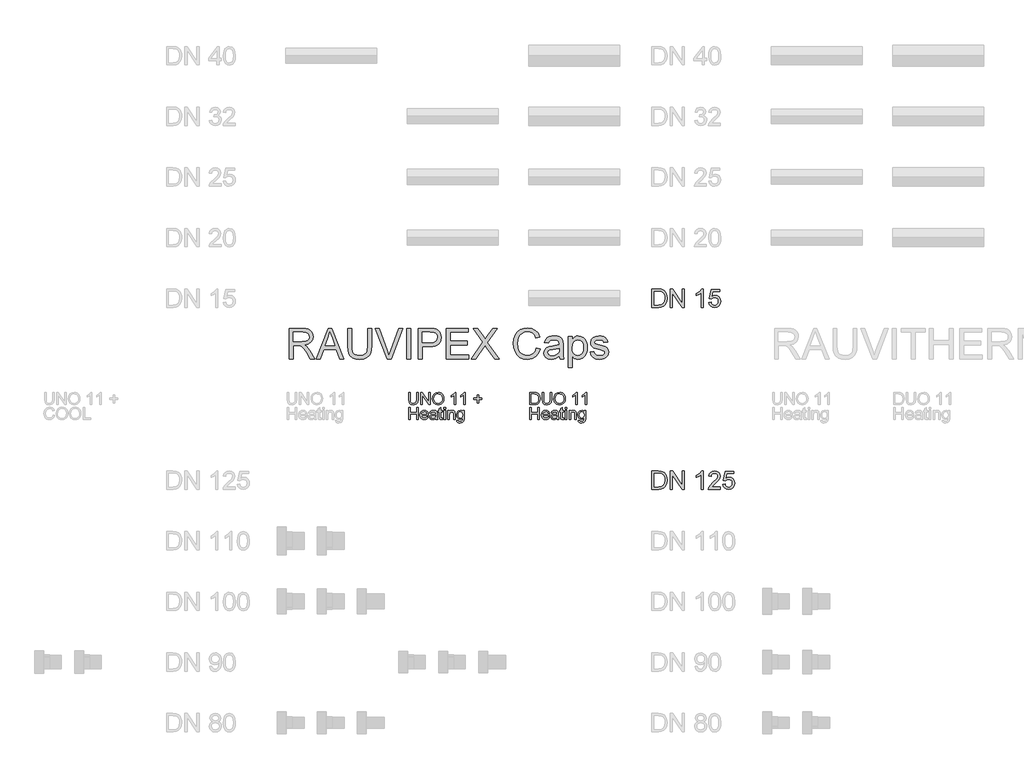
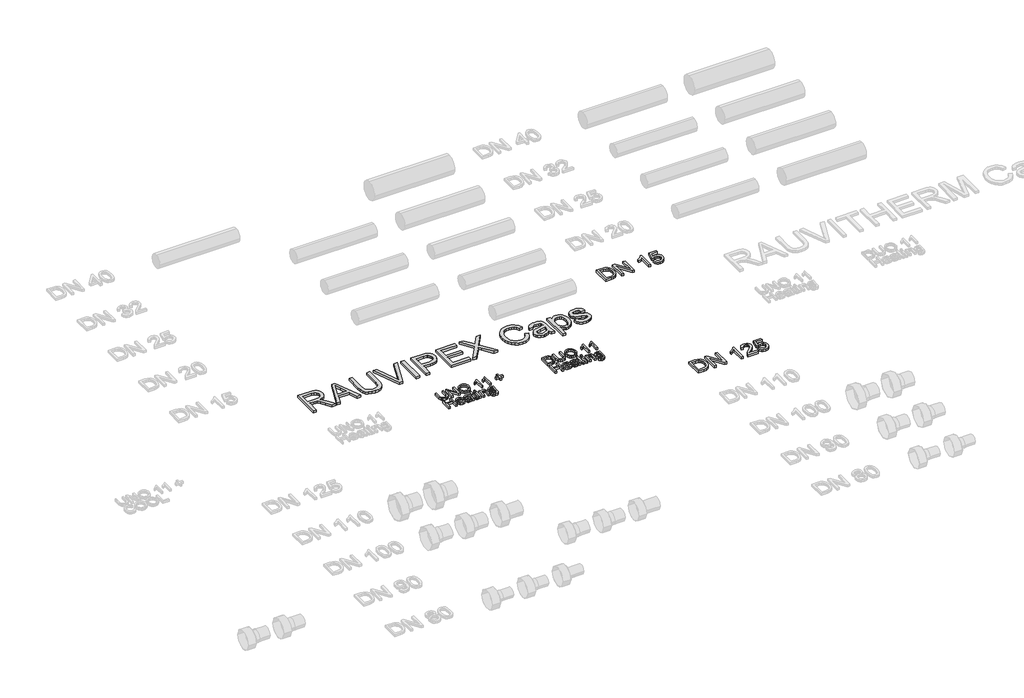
# One storey, part 28 of 44: 5 proxies.
"""IFC4 building model written with IfcOpenShell, lengths in millimetres."""

import ifcopenshell
import ifcopenshell.guid

model = None  # the IFC model being written
_history = None  # IfcOwnerHistory: only IFC2X3 demands one
_inside = {}  # id of a spatial element -> (the spatial element, [elements in it])
_under = {}  # id of a project, library or spatial element -> (it, [spatial elements below it])
_declared = {}  # id of a project -> (the project, [libraries it declares])
_typed = {}  # id of a type object -> (the type object, [elements of that type])
_made_of = {}  # id of a material, layer set ... -> (it, [elements and type objects made of it])


def new_model(schema):
    """Start an empty IFC model of exactly this schema.

    Asked for "IFC4X3", IfcOpenShell would pick the latest addendum, in which some entities
    have other attributes; the version numbers below select the first issue.
    IFC2X3 requires an IfcOwnerHistory on every rooted entity: one is made here for all.
    """
    global model, _history
    if schema == "IFC4X3":
        model = ifcopenshell.file(schema_version=(4, 3, 0, 0))
    else:
        model = ifcopenshell.file(schema=schema)
    _inside.clear()
    _under.clear()
    _declared.clear()
    _typed.clear()
    _made_of.clear()
    _history = None
    if model.schema == "IFC2X3":
        org = make("IfcOrganization", Name="unknown")
        user = make(
            "IfcPersonAndOrganization",
            ThePerson=make("IfcPerson", FamilyName="unknown"),
            TheOrganization=org,
        )
        app = make(
            "IfcApplication",
            ApplicationDeveloper=org,
            Version="unknown",
            ApplicationFullName="unknown",
            ApplicationIdentifier="unknown",
        )
        _history = make(
            "IfcOwnerHistory",
            OwningUser=user,
            OwningApplication=app,
            ChangeAction="ADDED",
            CreationDate=0,
        )
    return model


def make(cls, **values):
    """One entity of the class cls with the attributes given. An attribute that is None is left unset."""
    return model.create_entity(
        cls, **{name: value for name, value in values.items() if value is not None}
    )


def rooted(cls, **values):
    """An entity with a GlobalId (a new one), such as an element, a storey or a relation."""
    return make(cls, GlobalId=ifcopenshell.guid.new(), OwnerHistory=_history, **values)


def si_unit(unit_type, name, prefix=None):
    """IfcSIUnit, for example si_unit("LENGTHUNIT", "METRE", prefix="MILLI")."""
    return make("IfcSIUnit", UnitType=unit_type, Prefix=prefix, Name=name)


def assignment(units):
    """IfcUnitAssignment: the units of a project."""
    return None if units is None else make("IfcUnitAssignment", Units=units)


def point(xyz):
    """IfcCartesianPoint."""
    return None if xyz is None else make("IfcCartesianPoint", Coordinates=xyz)


def direction(xyz):
    """IfcDirection."""
    return None if xyz is None else make("IfcDirection", DirectionRatios=xyz)


def frame(location, z_axis=None, x_axis=None):
    """IfcAxis2Placement3D, a coordinate frame: its origin and axes. An axis left out is left unset."""
    return make(
        "IfcAxis2Placement3D",
        Location=point(location),
        Axis=direction(z_axis),
        RefDirection=direction(x_axis),
    )


def origin():
    """The frame at (0, 0, 0) with its axes left unset."""
    return frame((0.0, 0.0, 0.0))


def origin_with_axes():
    """The frame at (0, 0, 0) with the z axis (0, 0, 1) and the x axis (1, 0, 0) written out."""
    return frame((0.0, 0.0, 0.0), z_axis=(0.0, 0.0, 1.0), x_axis=(1.0, 0.0, 0.0))


def place(relative_to, where):
    """IfcLocalPlacement: puts the frame where relative to a parent placement (None: the world)."""
    return make(
        "IfcLocalPlacement", PlacementRelTo=relative_to, RelativePlacement=where
    )


def context(
    kind, dimensions, precision=None, world=None, true_north=None, identifier=None
):
    """IfcGeometricRepresentationContext, for example the 3D "Model" context."""
    return make(
        "IfcGeometricRepresentationContext",
        ContextIdentifier=identifier,
        ContextType=kind,
        CoordinateSpaceDimension=dimensions,
        Precision=precision,
        WorldCoordinateSystem=world,
        TrueNorth=true_north,
    )


def project(units=None, contexts=None):
    """IfcProject with its units and contexts."""
    return rooted(
        "IfcProject",
        Name="project",
        RepresentationContexts=contexts,
        UnitsInContext=assignment(units),
    )


def spatial(cls, under=None, at=None, **own):
    """A site, building, storey or space (cls), placed at a placement, below another one or the project."""
    s = rooted(cls, ObjectPlacement=at, **own)
    if under is not None:
        _under.setdefault(under.id(), (under, []))[1].append(s)
    return s


def polyline(points):
    """IfcPolyline through the points."""
    return make("IfcPolyline", Points=[point(p) for p in points])


def outline(outer, holes=None, kind="AREA"):
    """IfcArbitraryClosedProfileDef: a profile drawn as a closed curve; with holes, ...WithVoids."""
    if holes is None:
        return make("IfcArbitraryClosedProfileDef", ProfileType=kind, OuterCurve=outer)
    return make(
        "IfcArbitraryProfileDefWithVoids",
        ProfileType=kind,
        OuterCurve=outer,
        InnerCurves=holes,
    )


def extrude(swept, where, along, depth):
    """IfcExtrudedAreaSolid: the profile swept, set in the frame where, extruded along a direction by depth."""
    return make(
        "IfcExtrudedAreaSolid",
        SweptArea=swept,
        Position=where,
        ExtrudedDirection=direction(along),
        Depth=depth,
    )


def shape(context_of_items, identifier, shape_type, items):
    """IfcShapeRepresentation: the items that make up one representation, for example the "Body"."""
    return make(
        "IfcShapeRepresentation",
        ContextOfItems=context_of_items,
        RepresentationIdentifier=identifier,
        RepresentationType=shape_type,
        Items=items,
    )


def made_of(thing, what):
    """Note that an element or type object is made of a material, layer set ...; save() writes the relation."""
    if what is not None:
        _made_of.setdefault(what.id(), (what, []))[1].append(thing)
    return thing


def element(
    cls,
    number,
    at=None,
    inside=None,
    cuts=None,
    type_object=None,
    material=None,
    context=None,
    identifier="Body",
    shape_type=None,
    held_by="IfcProductDefinitionShape",
    body=None,
    shapes=None,
    **own,
):
    """One element of the class cls, such as IfcWall. Its Tag is "e" and its number.

    at: its placement. inside: the storey or other place that contains it. cuts: it is an
    opening in that element (IfcRelVoidsElement). A single representation is given by context,
    identifier, shape_type and body (its items); several are given by shapes. held_by: the class
    of the entity that holds the representations. save() writes the other relations.
    """
    e = rooted(cls, Tag="e%d" % number, ObjectPlacement=at, **own)
    if body is not None:
        shapes = [shape(context, identifier, shape_type, body)]
    if shapes is not None:
        e.Representation = make(held_by, Representations=shapes)
    if inside is not None:
        _inside.setdefault(inside.id(), (inside, []))[1].append(e)
    if cuts is not None:
        rooted(
            "IfcRelVoidsElement", RelatingBuildingElement=cuts, RelatedOpeningElement=e
        )
    if type_object is not None:
        _typed.setdefault(type_object.id(), (type_object, []))[1].append(e)
    return made_of(e, material)


def aggregate(whole, parts):
    """IfcRelAggregates: a whole, such as a stair, and the parts it consists of."""
    return rooted("IfcRelAggregates", RelatingObject=whole, RelatedObjects=parts)


def save(model, path):
    """Write the relations noted so far, then the file.

    IfcRelAggregates (storeys below a building ...), IfcRelContainedInSpatialStructure (elements
    in a storey), IfcRelDefinesByType, IfcRelAssociatesMaterial and IfcRelDeclares: one each for
    every whole, place, type object, material and project.
    """
    for whole, parts in _under.values():
        aggregate(whole, parts)
    for where, things in _inside.values():
        rooted(
            "IfcRelContainedInSpatialStructure",
            RelatedElements=things,
            RelatingStructure=where,
        )
    for kind, things in _typed.values():
        rooted("IfcRelDefinesByType", RelatedObjects=things, RelatingType=kind)
    for what, things in _made_of.values():
        rooted("IfcRelAssociatesMaterial", RelatedObjects=things, RelatingMaterial=what)
    for by, libraries in _declared.values():
        rooted("IfcRelDeclares", RelatingContext=by, RelatedDefinitions=libraries)
    model.write(path)


model = new_model("IFC4")

# Units and contexts
model_context = context("Model", 3, world=origin())
ifc_project = project(units=[si_unit("LENGTHUNIT", "METRE", prefix="MILLI")], contexts=[model_context])

# Site, building, storey
site = spatial("IfcSite", under=ifc_project)
building = spatial("IfcBuilding", under=site)
storey = spatial("IfcBuildingStorey", under=building, Name="REHAU Starting view", Elevation=0.0)

# Proxies
placement = place(None, origin())
element("IfcBuildingElementProxy", 1, Name="100", ObjectType="100", at=placement, inside=storey, context=model_context, shape_type="SweptSolid", body=[
    extrude(outline(polyline([(28076.9118625, 13222.431128), (28089.4689012, 13222.431128), (28089.4689012, 13164.477451), (28086.0598614, 13140.4547567), (28073.7726028, 13125.9847316), (28063.5086951, 13121.8000739), (28050.4734097, 13120.405188), (28027.529836, 13125.2612303), (28019.8901532, 13131.2055902), (28014.8011189, 13139.3265853), (28010.9874089, 13164.477451), (28010.9874089, 13222.431128), (28023.5444477, 13222.431128), (28023.5444477, 13164.9189094), (28026.0215198, 13145.7767829), (28034.5318566, 13136.2976902), (28049.2961874, 13132.9622268), (28062.067824, 13134.6115644), (28070.5597667, 13139.5595772), (28075.3238385, 13149.1980855), (28076.9118625, 13164.9189094), (28076.9118625, 13222.431128)])), origin_with_axes(), (0.0, 0.0, 1.0), 20.0),
    extrude(outline(polyline([(28111.4437191, 13121.9748178), (28111.4437191, 13222.431128), (28124.8836746, 13222.431128), (28177.3681726, 13142.8459897), (28177.3681726, 13222.431128), (28189.9252114, 13222.431128), (28189.9252114, 13121.9748178), (28176.4852558, 13121.9748178), (28124.0007578, 13201.5844816), (28124.0007578, 13121.9748178), (28111.4437191, 13121.9748178)])), origin_with_axes(), (0.0, 0.0, 1.0), 20.0),
    extrude(outline(polyline([(28207.1911397, 13170.8785977), (28210.5388658, 13193.0925389), (28220.5820443, 13209.8986147), (28235.9165921, 13220.4752221), (28255.1384264, 13224.0007578), (28268.3147332, 13222.3452889), (28280.1298766, 13217.3788819), (28289.9400631, 13209.4510249), (28297.1014993, 13198.9112058), (28301.479295, 13186.2683279), (28302.9385603, 13172.0312947), (28301.402653, 13157.6041891), (28296.794931, 13144.7835015), (28289.369846, 13134.2252883), (28279.3818499, 13126.5856055), (28267.667874, 13121.9502924), (28255.06485, 13120.405188), (28241.6862081, 13122.1127736), (28229.8036197, 13127.2355304), (28220.0179586, 13135.3105402), (28212.9300988, 13145.8748848), (28207.1911397, 13170.8785977)]), holes=[polyline([(28219.7481785, 13170.7559704), (28222.2589731, 13155.0412778), (28229.7913569, 13143.0667189), (28241.1129253, 13135.4883498), (28254.9912736, 13132.9622268), (28269.071957, 13135.5128753), (28280.4119195, 13143.1648208), (28287.889121, 13155.5072617), (28290.3815215, 13172.1293965), (28286.1140904, 13192.8534156), (28273.6428907, 13206.575414), (28255.2120028, 13211.4437191), (28241.7046022, 13209.0984714), (28230.2205526, 13202.0627282), (28222.366272, 13189.5455433), (28219.7481785, 13170.7559704)])]), origin_with_axes(), (0.0, 0.0, 1.0), 20.0),
    extrude(outline(polyline([(28401.8252406, 13121.9748178), (28389.2682018, 13121.9748178), (28389.2682018, 13200.2601064), (28377.3733507, 13191.7865578), (28364.1541243, 13185.4467247), (28364.1541243, 13197.3170505), (28382.5604868, 13209.0647488), (28393.7318367, 13222.431128), (28401.8252406, 13222.431128), (28401.8252406, 13121.9748178)])), origin_with_axes(), (0.0, 0.0, 1.0), 20.0),
    extrude(outline(polyline([(28478.7371031, 13121.9748178), (28466.1800643, 13121.9748178), (28466.1800643, 13200.2601064), (28454.2852131, 13191.7865578), (28441.0659868, 13185.4467247), (28441.0659868, 13197.3170505), (28459.4723492, 13209.0647488), (28470.6436992, 13222.431128), (28478.7371031, 13222.431128), (28478.7371031, 13121.9748178)])), origin_with_axes(), (0.0, 0.0, 1.0), 20.0),
    extrude(outline(polyline([(28576.0541535, 13137.6711163), (28576.0541535, 13164.3548237), (28549.3704461, 13164.3548237), (28549.3704461, 13176.9118625), (28576.0541535, 13176.9118625), (28576.0541535, 13203.5955698), (28588.6111923, 13203.5955698), (28588.6111923, 13176.9118625), (28615.2948997, 13176.9118625), (28615.2948997, 13164.3548237), (28588.6111923, 13164.3548237), (28588.6111923, 13137.6711163), (28576.0541535, 13137.6711163)])), origin_with_axes(), (0.0, 0.0, 1.0), 20.0),
    extrude(outline(polyline([(28010.9874089, 13000.0), (28010.9874089, 13100.4563101), (28023.5444477, 13100.4563101), (28023.5444477, 13059.6459342), (28076.9118625, 13059.6459342), (28076.9118625, 13100.4563101), (28089.4689012, 13100.4563101), (28089.4689012, 13000.0), (28076.9118625, 13000.0), (28076.9118625, 13047.0888954), (28023.5444477, 13047.0888954), (28023.5444477, 13000.0), (28010.9874089, 13000.0)])), origin_with_axes(), (0.0, 0.0, 1.0), 20.0),
    extrude(outline(polyline([(28161.5247213, 13021.9748178), (28173.8365055, 13020.405188), (28169.4004617, 13011.1284304), (28162.321799, 13004.1938547), (28152.7599328, 12999.8712413), (28140.8742787, 12998.4303702), (28126.1406048, 13000.9166393), (28114.803708, 13008.3754468), (28107.5748268, 13020.3224146), (28105.1651997, 13036.2731647), (28107.5993522, 13052.7604095), (28114.9018098, 13065.0905877), (28126.0854225, 13072.7793214), (28140.1630402, 13075.3422326), (28153.8022651, 13072.7854527), (28164.7007692, 13065.1151131), (28171.846877, 13052.8094604), (28174.2289129, 13036.3467411), (28174.1553365, 13032.9622268), (28117.7222385, 13032.9622268), (28119.8958079, 13023.5628418), (28124.9449883, 13016.6527916), (28132.2321175, 13012.4037546), (28141.1195333, 13010.9874089), (28153.4313175, 13013.6116338), (28161.5247213, 13021.9748178)]), holes=[polyline([(28117.7222385, 13045.5192655), (28161.6718741, 13045.5192655), (28156.6441535, 13056.8990819), (28149.3233018, 13061.3136659), (28140.1139892, 13062.7851938), (28124.6506827, 13058.088567), (28119.7854433, 13052.5979283), (28117.7222385, 13045.5192655)])]), origin_with_axes(), (0.0, 0.0, 1.0), 20.0),
    extrude(outline(polyline([(28233.8748471, 13009.4177791), (28221.697953, 13000.9074423), (28208.2457347, 12998.4303702), (28197.7519008, 12999.9202922), (28190.0110505, 13004.3900585), (28185.2377816, 13011.1774813), (28183.646692, 13019.6203731), (28186.0501877, 13029.5531869), (28192.3654953, 13036.7636741), (28201.157875, 13040.8839524), (28212.0226566, 13042.7724133), (28233.8012707, 13047.0888954), (28233.8748471, 13049.8847985), (28230.4167563, 13059.1554248), (28216.5353424, 13062.7851938), (28203.8311508, 13060.3694354), (28197.7733606, 13051.7977849), (28185.2163218, 13053.3674148), (28190.6487126, 13065.6301479), (28201.5870706, 13072.8161096), (28218.1540231, 13075.3422326), (28233.372075, 13073.1104152), (28241.968251, 13067.5063461), (28245.8187492, 13058.9837466), (28246.4318858, 13047.9963376), (28246.4318858, 13032.3736156), (28247.069548, 13010.5582133), (28249.5711455, 13000.0), (28237.0141068, 13000.0), (28233.8748471, 13009.4177791)]), holes=[polyline([(28233.8748471, 13034.5318566), (28213.6168119, 13030.6813584), (28202.8133439, 13028.6457447), (28197.9205134, 13025.3348067), (28196.2037308, 13020.5032899), (28199.9438644, 13013.7097357), (28210.9190106, 13010.9874089), (28223.6232021, 13013.9917785), (28231.8147079, 13021.2635793), (28233.8012707, 13030.975664), (28233.8748471, 13034.5318566)])]), origin_with_axes(), (0.0, 0.0, 1.0), 20.0),
    extrude(outline(polyline([(28290.3815215, 13010.4723741), (28291.9511514, 12999.632118), (28282.5578978, 12998.4303702), (28272.0364727, 13000.5150348), (28266.7880229, 13005.9842138), (28265.267444, 13020.2335097), (28265.267444, 13061.215564), (28255.8496649, 13061.215564), (28255.8496649, 13073.7726028), (28265.267444, 13073.7726028), (28265.267444, 13091.7007187), (28277.8244828, 13099.082884), (28277.8244828, 13073.7726028), (28290.3815215, 13073.7726028), (28290.3815215, 13061.215564), (28277.8244828, 13061.215564), (28277.8244828, 13020.6013917), (28278.4866703, 13014.1266686), (28280.6326487, 13011.8335375), (28284.9123425, 13010.9874089), (28290.3815215, 13010.4723741)])), origin_with_axes(), (0.0, 0.0, 1.0), 20.0),
    extrude(outline(polyline([(28302.9385603, 13087.8992714), (28302.9385603, 13100.4563101), (28315.4955991, 13100.4563101), (28315.4955991, 13087.8992714), (28302.9385603, 13087.8992714)])), origin_with_axes(), (0.0, 0.0, 1.0), 20.0),
    extrude(outline(polyline([(28302.9385603, 13000.0), (28302.9385603, 13073.7726028), (28315.4955991, 13073.7726028), (28315.4955991, 13000.0), (28302.9385603, 13000.0)])), origin_with_axes(), (0.0, 0.0, 1.0), 20.0),
    extrude(outline(polyline([(28334.3311572, 13000.0), (28334.3311572, 13073.7726028), (28346.888196, 13073.7726028), (28346.888196, 13063.4719069), (28356.4899161, 13072.3746512), (28369.5987778, 13075.3422326), (28381.4568408, 13072.9509996), (28389.5502447, 13066.6724803), (28393.3149038, 13057.4386422), (28393.9770914, 13045.2985363), (28393.9770914, 13000.0), (28381.4200526, 13000.0), (28381.4200526, 13043.6062792), (28379.9730501, 13054.7163154), (28374.8594904, 13060.5901646), (28366.2387889, 13062.7851938), (28352.6148924, 13057.8555751), (28348.3198701, 13050.712533), (28346.888196, 13039.1426443), (28346.888196, 13000.0), (28334.3311572, 13000.0)])), origin_with_axes(), (0.0, 0.0, 1.0), 20.0),
    extrude(outline(polyline([(28408.10376, 12993.7214806), (28420.6607988, 12992.1518508), (28424.7320262, 12985.5299749), (28436.9211829, 12982.7340717), (28449.7725273, 12985.8978569), (28455.9038939, 12994.7760757), (28456.7622852, 13009.4177791), (28447.9208546, 13002.3544448), (28437.1419121, 13000.0), (28424.1955316, 13002.7407209), (28414.5416949, 13010.9628835), (28408.5360213, 13023.0171502), (28406.5341301, 13037.2541834), (28410.127111, 13056.7151409), (28420.5259087, 13070.4861903), (28436.5287755, 13075.3422326), (28447.7307822, 13072.5953804), (28456.7622852, 13064.3548237), (28456.7622852, 13073.7726028), (28469.319324, 13073.7726028), (28469.319324, 13010.0799667), (28465.8857587, 12985.6893904), (28455.0087144, 12974.3463622), (28436.6759283, 12970.1770329), (28424.9926092, 12971.6454952), (28415.7924937, 12976.0508821), (28409.8910533, 12983.4054563), (28408.10376, 12993.7214806)]), holes=[polyline([(28419.0911689, 13038.1125747), (28420.4308725, 13026.5948026), (28424.4499833, 13018.6761426), (28430.4924451, 13014.0868147), (28437.9022016, 13012.5570388), (28445.2567758, 13014.0776177), (28451.3298944, 13018.6393544), (28455.4041875, 13026.4568468), (28456.7622852, 13037.7446927), (28455.3643336, 13048.6309341), (28451.1704789, 13056.4698863), (28445.0084555, 13061.2063669), (28437.7059979, 13062.7851938), (28430.5353646, 13061.2308924), (28424.5235597, 13056.5679881), (28420.4492666, 13048.8455319), (28419.0911689, 13038.1125747)])]), origin_with_axes(), (0.0, 0.0, 1.0), 20.0),
])
element("IfcBuildingElementProxy", 2, Name="100", ObjectType="100", at=placement, inside=storey, context=model_context, shape_type="SweptSolid", body=[
    extrude(outline(polyline([(29010.9874089, 13121.9748178), (29010.9874089, 13222.431128), (29045.6418929, 13222.431128), (29063.5700088, 13220.9841255), (29078.3343395, 13213.7981638), (29090.2291907, 13196.6303374), (29094.1777908, 13172.7425332), (29091.5045149, 13152.4722352), (29084.6373844, 13137.8427946), (29075.4648599, 13128.7315838), (29063.4596442, 13123.6916005), (29047.3096246, 13121.9748178), (29010.9874089, 13121.9748178)]), holes=[polyline([(29023.5444477, 13134.5318566), (29045.7645202, 13134.5318566), (29061.9268025, 13136.3467411), (29071.2464797, 13141.4725636), (29078.8861625, 13153.9437632), (29081.620752, 13172.9387369), (29080.2810484, 13186.6239471), (29076.2619376, 13196.7284393), (29063.2266522, 13207.863001), (29045.4211637, 13209.8740892), (29023.5444477, 13209.8740892), (29023.5444477, 13134.5318566)])]), origin_with_axes(), (0.0, 0.0, 1.0), 20.0),
    extrude(outline(polyline([(29177.3681726, 13222.431128), (29189.9252114, 13222.431128), (29189.9252114, 13164.477451), (29186.5161716, 13140.4547567), (29174.2289129, 13125.9847316), (29163.9650053, 13121.8000739), (29150.9297199, 13120.405188), (29127.9861461, 13125.2612303), (29120.3464634, 13131.2055902), (29115.2574291, 13139.3265853), (29111.4437191, 13164.477451), (29111.4437191, 13222.431128), (29124.0007578, 13222.431128), (29124.0007578, 13164.9189094), (29126.4778299, 13145.7767829), (29134.9881668, 13136.2976902), (29149.7524975, 13132.9622268), (29162.5241341, 13134.6115644), (29171.0160768, 13139.5595772), (29175.7801487, 13149.1980855), (29177.3681726, 13164.9189094), (29177.3681726, 13222.431128)])), origin_with_axes(), (0.0, 0.0, 1.0), 20.0),
    extrude(outline(polyline([(29207.1911397, 13170.8785977), (29210.5388658, 13193.0925389), (29220.5820443, 13209.8986147), (29235.9165921, 13220.4752221), (29255.1384264, 13224.0007578), (29268.3147332, 13222.3452889), (29280.1298766, 13217.3788819), (29289.9400631, 13209.4510249), (29297.1014993, 13198.9112058), (29301.479295, 13186.2683279), (29302.9385603, 13172.0312947), (29301.402653, 13157.6041891), (29296.794931, 13144.7835015), (29289.369846, 13134.2252883), (29279.3818499, 13126.5856055), (29267.667874, 13121.9502924), (29255.06485, 13120.405188), (29241.6862081, 13122.1127736), (29229.8036197, 13127.2355304), (29220.0179586, 13135.3105402), (29212.9300988, 13145.8748848), (29207.1911397, 13170.8785977)]), holes=[polyline([(29219.7481785, 13170.7559704), (29222.2589731, 13155.0412778), (29229.7913569, 13143.0667189), (29241.1129253, 13135.4883498), (29254.9912736, 13132.9622268), (29269.071957, 13135.5128753), (29280.4119195, 13143.1648208), (29287.889121, 13155.5072617), (29290.3815215, 13172.1293965), (29286.1140904, 13192.8534156), (29273.6428907, 13206.575414), (29255.2120028, 13211.4437191), (29241.7046022, 13209.0984714), (29230.2205526, 13202.0627282), (29222.366272, 13189.5455433), (29219.7481785, 13170.7559704)])]), origin_with_axes(), (0.0, 0.0, 1.0), 20.0),
    extrude(outline(polyline([(29401.8252406, 13121.9748178), (29389.2682018, 13121.9748178), (29389.2682018, 13200.2601064), (29377.3733507, 13191.7865578), (29364.1541243, 13185.4467247), (29364.1541243, 13197.3170505), (29382.5604868, 13209.0647488), (29393.7318367, 13222.431128), (29401.8252406, 13222.431128), (29401.8252406, 13121.9748178)])), origin_with_axes(), (0.0, 0.0, 1.0), 20.0),
    extrude(outline(polyline([(29478.7371031, 13121.9748178), (29466.1800643, 13121.9748178), (29466.1800643, 13200.2601064), (29454.2852131, 13191.7865578), (29441.0659868, 13185.4467247), (29441.0659868, 13197.3170505), (29459.4723492, 13209.0647488), (29470.6436992, 13222.431128), (29478.7371031, 13222.431128), (29478.7371031, 13121.9748178)])), origin_with_axes(), (0.0, 0.0, 1.0), 20.0),
    extrude(outline(polyline([(29010.9874089, 13000.0), (29010.9874089, 13100.4563101), (29023.5444477, 13100.4563101), (29023.5444477, 13059.6459342), (29076.9118625, 13059.6459342), (29076.9118625, 13100.4563101), (29089.4689012, 13100.4563101), (29089.4689012, 13000.0), (29076.9118625, 13000.0), (29076.9118625, 13047.0888954), (29023.5444477, 13047.0888954), (29023.5444477, 13000.0), (29010.9874089, 13000.0)])), origin_with_axes(), (0.0, 0.0, 1.0), 20.0),
    extrude(outline(polyline([(29161.5247213, 13021.9748178), (29173.8365055, 13020.405188), (29169.4004617, 13011.1284304), (29162.321799, 13004.1938547), (29152.7599328, 12999.8712413), (29140.8742787, 12998.4303702), (29126.1406048, 13000.9166393), (29114.803708, 13008.3754468), (29107.5748268, 13020.3224146), (29105.1651997, 13036.2731647), (29107.5993522, 13052.7604095), (29114.9018098, 13065.0905877), (29126.0854225, 13072.7793214), (29140.1630402, 13075.3422326), (29153.8022651, 13072.7854527), (29164.7007692, 13065.1151131), (29171.846877, 13052.8094604), (29174.2289129, 13036.3467411), (29174.1553365, 13032.9622268), (29117.7222385, 13032.9622268), (29119.8958079, 13023.5628418), (29124.9449883, 13016.6527916), (29132.2321175, 13012.4037546), (29141.1195333, 13010.9874089), (29153.4313175, 13013.6116338), (29161.5247213, 13021.9748178)]), holes=[polyline([(29117.7222385, 13045.5192655), (29161.6718741, 13045.5192655), (29156.6441535, 13056.8990819), (29149.3233018, 13061.3136659), (29140.1139892, 13062.7851938), (29124.6506827, 13058.088567), (29119.7854433, 13052.5979283), (29117.7222385, 13045.5192655)])]), origin_with_axes(), (0.0, 0.0, 1.0), 20.0),
    extrude(outline(polyline([(29233.8748471, 13009.4177791), (29221.697953, 13000.9074423), (29208.2457347, 12998.4303702), (29197.7519008, 12999.9202922), (29190.0110505, 13004.3900585), (29185.2377816, 13011.1774813), (29183.646692, 13019.6203731), (29186.0501877, 13029.5531869), (29192.3654953, 13036.7636741), (29201.157875, 13040.8839524), (29212.0226566, 13042.7724133), (29233.8012707, 13047.0888954), (29233.8748471, 13049.8847985), (29230.4167563, 13059.1554248), (29216.5353424, 13062.7851938), (29203.8311508, 13060.3694354), (29197.7733606, 13051.7977849), (29185.2163218, 13053.3674148), (29190.6487126, 13065.6301479), (29201.5870706, 13072.8161096), (29218.1540231, 13075.3422326), (29233.372075, 13073.1104152), (29241.968251, 13067.5063461), (29245.8187492, 13058.9837466), (29246.4318858, 13047.9963376), (29246.4318858, 13032.3736156), (29247.069548, 13010.5582133), (29249.5711455, 13000.0), (29237.0141068, 13000.0), (29233.8748471, 13009.4177791)]), holes=[polyline([(29233.8748471, 13034.5318566), (29213.6168119, 13030.6813584), (29202.8133439, 13028.6457447), (29197.9205134, 13025.3348067), (29196.2037308, 13020.5032899), (29199.9438644, 13013.7097357), (29210.9190106, 13010.9874089), (29223.6232021, 13013.9917785), (29231.8147079, 13021.2635793), (29233.8012707, 13030.975664), (29233.8748471, 13034.5318566)])]), origin_with_axes(), (0.0, 0.0, 1.0), 20.0),
    extrude(outline(polyline([(29290.3815215, 13010.4723741), (29291.9511514, 12999.632118), (29282.5578978, 12998.4303702), (29272.0364727, 13000.5150348), (29266.7880229, 13005.9842138), (29265.267444, 13020.2335097), (29265.267444, 13061.215564), (29255.8496649, 13061.215564), (29255.8496649, 13073.7726028), (29265.267444, 13073.7726028), (29265.267444, 13091.7007187), (29277.8244828, 13099.082884), (29277.8244828, 13073.7726028), (29290.3815215, 13073.7726028), (29290.3815215, 13061.215564), (29277.8244828, 13061.215564), (29277.8244828, 13020.6013917), (29278.4866703, 13014.1266686), (29280.6326487, 13011.8335375), (29284.9123425, 13010.9874089), (29290.3815215, 13010.4723741)])), origin_with_axes(), (0.0, 0.0, 1.0), 20.0),
    extrude(outline(polyline([(29302.9385603, 13087.8992714), (29302.9385603, 13100.4563101), (29315.4955991, 13100.4563101), (29315.4955991, 13087.8992714), (29302.9385603, 13087.8992714)])), origin_with_axes(), (0.0, 0.0, 1.0), 20.0),
    extrude(outline(polyline([(29302.9385603, 13000.0), (29302.9385603, 13073.7726028), (29315.4955991, 13073.7726028), (29315.4955991, 13000.0), (29302.9385603, 13000.0)])), origin_with_axes(), (0.0, 0.0, 1.0), 20.0),
    extrude(outline(polyline([(29334.3311572, 13000.0), (29334.3311572, 13073.7726028), (29346.888196, 13073.7726028), (29346.888196, 13063.4719069), (29356.4899161, 13072.3746512), (29369.5987778, 13075.3422326), (29381.4568408, 13072.9509996), (29389.5502447, 13066.6724803), (29393.3149038, 13057.4386422), (29393.9770914, 13045.2985363), (29393.9770914, 13000.0), (29381.4200526, 13000.0), (29381.4200526, 13043.6062792), (29379.9730501, 13054.7163154), (29374.8594904, 13060.5901646), (29366.2387889, 13062.7851938), (29352.6148924, 13057.8555751), (29348.3198701, 13050.712533), (29346.888196, 13039.1426443), (29346.888196, 13000.0), (29334.3311572, 13000.0)])), origin_with_axes(), (0.0, 0.0, 1.0), 20.0),
    extrude(outline(polyline([(29408.10376, 12993.7214806), (29420.6607988, 12992.1518508), (29424.7320262, 12985.5299749), (29436.9211829, 12982.7340717), (29449.7725273, 12985.8978569), (29455.9038939, 12994.7760757), (29456.7622852, 13009.4177791), (29447.9208546, 13002.3544448), (29437.1419121, 13000.0), (29424.1955316, 13002.7407209), (29414.5416949, 13010.9628835), (29408.5360213, 13023.0171502), (29406.5341301, 13037.2541834), (29410.127111, 13056.7151409), (29420.5259087, 13070.4861903), (29436.5287755, 13075.3422326), (29447.7307822, 13072.5953804), (29456.7622852, 13064.3548237), (29456.7622852, 13073.7726028), (29469.319324, 13073.7726028), (29469.319324, 13010.0799667), (29465.8857587, 12985.6893904), (29455.0087144, 12974.3463622), (29436.6759283, 12970.1770329), (29424.9926092, 12971.6454952), (29415.7924937, 12976.0508821), (29409.8910533, 12983.4054563), (29408.10376, 12993.7214806)]), holes=[polyline([(29419.0911689, 13038.1125747), (29420.4308725, 13026.5948026), (29424.4499833, 13018.6761426), (29430.4924451, 13014.0868147), (29437.9022016, 13012.5570388), (29445.2567758, 13014.0776177), (29451.3298944, 13018.6393544), (29455.4041875, 13026.4568468), (29456.7622852, 13037.7446927), (29455.3643336, 13048.6309341), (29451.1704789, 13056.4698863), (29445.0084555, 13061.2063669), (29437.7059979, 13062.7851938), (29430.5353646, 13061.2308924), (29424.5235597, 13056.5679881), (29420.4492666, 13048.8455319), (29419.0911689, 13038.1125747)])]), origin_with_axes(), (0.0, 0.0, 1.0), 20.0),
])
element("IfcBuildingElementProxy", 3, Name="150", ObjectType="150", at=placement, inside=storey, context=model_context, shape_type="SweptSolid", body=[
    extrude(outline(polyline([(30016.4811134, 13925.0), (30016.4811134, 14075.6844652), (30068.4628393, 14075.6844652), (30095.3550131, 14073.5139615), (30117.5015093, 14062.735019), (30127.9217668, 14051.2571007), (30135.343786, 14036.9832793), (30139.7859611, 14020.1894663), (30141.2666861, 14001.151573), (30137.2567724, 13970.7461261), (30126.9560765, 13948.8019651), (30113.1972899, 13935.135149), (30095.1894663, 13927.575174), (30070.9644369, 13925.0), (30016.4811134, 13925.0)]), holes=[polyline([(30035.3166715, 13943.8355582), (30068.6467803, 13943.8355582), (30092.8902038, 13946.5578849), (30106.8697196, 13954.2466186), (30118.3292437, 13972.9534181), (30122.431128, 14001.4458786), (30120.4215726, 14021.9736939), (30114.3929064, 14037.1304321), (30105.4855636, 14047.5414926), (30094.8399784, 14053.8322747), (30068.1317455, 14056.8489071), (30035.3166715, 14056.8489071), (30035.3166715, 13943.8355582)])]), origin_with_axes(), (0.0, 0.0, 1.0), 20.0),
    extrude(outline(polyline([(30167.1655786, 13925.0), (30167.1655786, 14075.6844652), (30187.3255119, 14075.6844652), (30266.0522589, 13956.3067578), (30266.0522589, 14075.6844652), (30284.8878171, 14075.6844652), (30284.8878171, 13925.0), (30264.7278837, 13925.0), (30186.0011368, 14044.4144956), (30186.0011368, 13925.0), (30167.1655786, 13925.0)])), origin_with_axes(), (0.0, 0.0, 1.0), 20.0),
    extrude(outline(polyline([(30440.2811718, 13925.0), (30421.4456137, 13925.0), (30421.4456137, 14042.4279329), (30403.6033369, 14029.7176099), (30383.7744974, 14020.2078604), (30383.7744974, 14038.0133489), (30411.3840411, 14055.6348965), (30428.141066, 14075.6844652), (30440.2811718, 14075.6844652), (30440.2811718, 13925.0)])), origin_with_axes(), (0.0, 0.0, 1.0), 20.0),
    extrude(outline(polyline([(30485.0156224, 13965.0255611), (30503.8511806, 13967.3800058), (30507.3092713, 13956.072233), (30513.3425361, 13947.9742306), (30521.9233836, 13943.1043927), (30533.0242228, 13941.4811134), (30546.525492, 13943.7389891), (30556.6422469, 13950.5126164), (30562.9606202, 13961.0202459), (30565.0667446, 13974.4801284), (30563.0939774, 13987.1536631), (30557.1756758, 13996.8473537), (30547.2658546, 14003.00018), (30533.3185284, 14005.0511222), (30516.7822327, 14001.7769724), (30506.2056254, 13993.2788983), (30487.3700672, 13995.6333431), (30503.8511806, 14073.3300205), (30576.8389684, 14073.3300205), (30576.8389684, 14054.4944623), (30519.0814952, 14054.4944623), (30511.0248795, 14012.9973732), (30524.4801635, 14021.1643535), (30538.5792409, 14023.8866803), (30556.1777959, 14020.511363), (30570.7873096, 14010.3854111), (30580.6235545, 13994.9527614), (30583.9023027, 13975.6573507), (30580.9500497, 13956.8217926), (30572.0932907, 13940.7085612), (30555.1339307, 13927.1613067), (30532.9506464, 13922.6455552), (30514.4507806, 13925.5472245), (30499.7125081, 13934.2522322), (30489.6095489, 13947.7489029), (30485.0156224, 13965.0255611)])), origin_with_axes(), (0.0, 0.0, 1.0), 20.0),
])
element("IfcBuildingElementProxy", 4, Name="150", ObjectType="150", at=placement, inside=storey, context=model_context, shape_type="SweptSolid", body=[
    extrude(outline(polyline([(30016.4811134, 12425.0), (30016.4811134, 12575.6844652), (30068.4628393, 12575.6844652), (30095.3550131, 12573.5139615), (30117.5015093, 12562.735019), (30127.9217668, 12551.2571007), (30135.343786, 12536.9832793), (30139.7859611, 12520.1894663), (30141.2666861, 12501.151573), (30137.2567724, 12470.7461261), (30126.9560765, 12448.8019651), (30113.1972899, 12435.135149), (30095.1894663, 12427.575174), (30070.9644369, 12425.0), (30016.4811134, 12425.0)]), holes=[polyline([(30035.3166715, 12443.8355582), (30068.6467803, 12443.8355582), (30092.8902038, 12446.5578849), (30106.8697196, 12454.2466186), (30118.3292437, 12472.9534181), (30122.431128, 12501.4458786), (30120.4215726, 12521.9736939), (30114.3929064, 12537.1304321), (30105.4855636, 12547.5414926), (30094.8399784, 12553.8322747), (30068.1317455, 12556.8489071), (30035.3166715, 12556.8489071), (30035.3166715, 12443.8355582)])]), origin_with_axes(), (0.0, 0.0, 1.0), 20.0),
    extrude(outline(polyline([(30167.1655786, 12425.0), (30167.1655786, 12575.6844652), (30187.3255119, 12575.6844652), (30266.0522589, 12456.3067578), (30266.0522589, 12575.6844652), (30284.8878171, 12575.6844652), (30284.8878171, 12425.0), (30264.7278837, 12425.0), (30186.0011368, 12544.4144956), (30186.0011368, 12425.0), (30167.1655786, 12425.0)])), origin_with_axes(), (0.0, 0.0, 1.0), 20.0),
    extrude(outline(polyline([(30440.2811718, 12425.0), (30421.4456137, 12425.0), (30421.4456137, 12542.4279329), (30403.6033369, 12529.7176099), (30383.7744974, 12520.2078604), (30383.7744974, 12538.0133489), (30411.3840411, 12555.6348965), (30428.141066, 12575.6844652), (30440.2811718, 12575.6844652), (30440.2811718, 12425.0)])), origin_with_axes(), (0.0, 0.0, 1.0), 20.0),
    extrude(outline(polyline([(30581.547858, 12443.8355582), (30581.547858, 12425.0), (30482.6611777, 12425.0), (30484.6845286, 12437.9862344), (30496.1256587, 12457.9806209), (30519.7068946, 12479.8144173), (30552.227663, 12511.1947515), (30558.325307, 12522.0104821), (30560.3578551, 12532.5319072), (30558.4402702, 12541.9634818), (30552.6875155, 12549.8039669), (30543.844552, 12555.087672), (30532.6563408, 12556.8489071), (30520.9071096, 12555.1290587), (30511.7790376, 12549.9695138), (30505.8883271, 12541.7749423), (30503.8511806, 12530.9500146), (30485.0156224, 12533.3044594), (30489.5819577, 12551.5238152), (30499.4549908, 12564.8319464), (30514.1196868, 12572.9713355), (30533.061011, 12575.6844652), (30552.140291, 12572.6678329), (30566.7773959, 12563.6179358), (30576.0894089, 12550.0982725), (30579.1934132, 12533.6723414), (30575.8456871, 12515.8116705), (30564.7172567, 12497.3439944), (30537.7331123, 12471.5370724), (30516.0648628, 12453.4188841), (30507.5667887, 12443.8355582), (30581.547858, 12443.8355582)])), origin_with_axes(), (0.0, 0.0, 1.0), 20.0),
    extrude(outline(polyline([(30600.3834161, 12465.0255611), (30619.2189743, 12467.3800058), (30622.677065, 12456.072233), (30628.7103298, 12447.9742306), (30637.2911773, 12443.1043927), (30648.3920165, 12441.4811134), (30661.8932857, 12443.7389891), (30672.0100406, 12450.5126164), (30678.3284139, 12461.0202459), (30680.4345383, 12474.4801284), (30678.4617711, 12487.1536631), (30672.5434695, 12496.8473537), (30662.6336482, 12503.00018), (30648.6863221, 12505.0511222), (30632.1500264, 12501.7769724), (30621.5734191, 12493.2788983), (30602.7378609, 12495.6333431), (30619.2189743, 12573.3300205), (30692.2067621, 12573.3300205), (30692.2067621, 12554.4944623), (30634.4492889, 12554.4944623), (30626.3926732, 12512.9973732), (30639.8479572, 12521.1643535), (30653.9470346, 12523.8866803), (30671.5455896, 12520.511363), (30686.1551033, 12510.3854111), (30695.9913482, 12494.9527614), (30699.2700964, 12475.6573507), (30696.3178434, 12456.8217926), (30687.4610844, 12440.7085612), (30670.5017244, 12427.1613067), (30648.3184401, 12422.6455552), (30629.8185743, 12425.5472245), (30615.0803018, 12434.2522322), (30604.9773425, 12447.7489029), (30600.3834161, 12465.0255611)])), origin_with_axes(), (0.0, 0.0, 1.0), 20.0),
])
element("IfcBuildingElementProxy", 5, Name="250", ObjectType="250", at=placement, inside=storey, context=model_context, shape_type="SweptSolid", body=[
    extrude(outline(polyline([(27027.4685223, 13500.0), (27027.4685223, 13751.1407754), (27135.6871426, 13751.1407754), (27164.7728128, 13749.4469854), (27185.9336917, 13744.3656153), (27201.4000639, 13734.9846244), (27213.402214, 13720.3919719), (27221.1047433, 13702.2967763), (27223.6722531, 13682.4081559), (27219.4186175, 13657.6680918), (27206.6577108, 13637.1586705), (27185.0063225, 13622.121494), (27154.0812423, 13613.7981638), (27171.9235191, 13600.370471), (27197.3686904, 13568.0581691), (27239.2459242, 13500.0), (27202.764293, 13500.0), (27170.0841091, 13552.0553023), (27146.4783477, 13586.5135825), (27129.8930011, 13602.7923608), (27114.9631235, 13608.7704432), (27096.7529647, 13609.8740892), (27058.8611192, 13609.8740892), (27058.8611192, 13500.0), (27027.4685223, 13500.0)]), holes=[polyline([(27058.8611192, 13641.2666861), (27129.1265803, 13641.2666861), (27164.964418, 13645.7119269), (27176.7519703, 13651.4907399), (27185.3205551, 13659.9366974), (27190.5398809, 13670.153087), (27192.2796561, 13681.2431963), (27188.961054, 13696.5562843), (27179.0052475, 13708.8956596), (27161.8757421, 13717.0350487), (27137.0360432, 13719.7481785), (27058.8611192, 13719.7481785), (27058.8611192, 13641.2666861)])]), origin_with_axes(), (0.0, 0.0, 1.0), 20.0),
    extrude(outline(polyline([(27249.3626791, 13500.0), (27349.6105227, 13751.1407754), (27376.3432811, 13751.1407754), (27476.5911248, 13500.0), (27443.4204315, 13500.0), (27414.6643222, 13578.4814923), (27311.2281679, 13578.4814923), (27282.5333723, 13500.0), (27249.3626791, 13500.0)]), holes=[polyline([(27322.7551371, 13609.8740892), (27403.1986667, 13609.8740892), (27380.573924, 13671.6169507), (27362.9769019, 13719.7481785), (27347.3419171, 13677.0125533), (27322.7551371, 13609.8740892)])]), origin_with_axes(), (0.0, 0.0, 1.0), 20.0),
    extrude(outline(polyline([(27674.9408338, 13751.1407754), (27706.3334307, 13751.1407754), (27706.3334307, 13606.2565829), (27704.2027809, 13572.3271331), (27697.8108312, 13546.1998472), (27685.8699948, 13526.0429796), (27667.0926846, 13510.0247844), (27641.4329154, 13499.5631401), (27608.844702, 13496.0759254), (27576.96926, 13499.1109518), (27551.4857676, 13508.2160312), (27532.3865607, 13523.076931), (27519.663975, 13543.3794186), (27512.5132687, 13570.6103504), (27510.1297, 13606.2565829), (27510.1297, 13751.1407754), (27541.5222969, 13751.1407754), (27541.5222969, 13607.3602289), (27543.070467, 13579.1482784), (27547.7149772, 13559.5049127), (27556.1302778, 13545.9009431), (27568.9908192, 13535.8071809), (27585.7601068, 13529.5531869), (27605.9016461, 13527.4685223), (27637.8307376, 13531.5918663), (27659.0605944, 13543.9618984), (27666.0081991, 13554.1093101), (27670.970774, 13568.0581691), (27674.9408338, 13607.3602289), (27674.9408338, 13751.1407754)])), origin_with_axes(), (0.0, 0.0, 1.0), 20.0),
    extrude(outline(polyline([(27835.460011, 13500.0), (27735.5187357, 13751.1407754), (27769.1186246, 13751.1407754), (27836.011834, 13570.2041474), (27849.5621542, 13529.4305596), (27862.9285334, 13570.2041474), (27930.0056838, 13751.1407754), (27963.6055727, 13751.1407754), (27867.8949403, 13500.0), (27835.460011, 13500.0)])), origin_with_axes(), (0.0, 0.0, 1.0), 20.0),
    extrude(outline(polyline([(27996.7149523, 13500.0), (27996.7149523, 13751.1407754), (28028.1075492, 13751.1407754), (28028.1075492, 13500.0), (27996.7149523, 13500.0)])), origin_with_axes(), (0.0, 0.0, 1.0), 20.0),
    extrude(outline(polyline([(28090.892743, 13500.0), (28090.892743, 13751.1407754), (28183.9668878, 13751.1407754), (28221.4908513, 13748.7495424), (28238.2218179, 13744.281309), (28251.9944001, 13737.0079754), (28263.0845094, 13726.5999806), (28271.7680573, 13712.7277637), (28277.3782578, 13696.3646791), (28279.2483246, 13678.4840813), (28274.1976113, 13648.8849091), (28259.0454717, 13624.221487), (28246.911114, 13614.5109352), (28230.7108938, 13607.5748268), (28210.4448112, 13603.4131617), (28186.1128661, 13602.02594), (28122.28534, 13602.02594), (28122.28534, 13500.0), (28090.892743, 13500.0)]), holes=[polyline([(28122.28534, 13633.4185369), (28187.9522761, 13633.4185369), (28215.7886804, 13636.3002792), (28234.1827802, 13644.9455061), (28244.4374908, 13658.817723), (28247.8557276, 13677.3804353), (28245.8400409, 13691.4825785), (28239.7929806, 13703.3774297), (28230.4656392, 13712.3292249), (28218.609109, 13717.6022001), (28187.2165121, 13719.7481785), (28122.28534, 13719.7481785), (28122.28534, 13633.4185369)])]), origin_with_axes(), (0.0, 0.0, 1.0), 20.0),
    extrude(outline(polyline([(28322.4131453, 13500.0), (28322.4131453, 13751.1407754), (28502.9205776, 13751.1407754), (28502.9205776, 13719.7481785), (28353.8057423, 13719.7481785), (28353.8057423, 13645.1907608), (28495.0724284, 13645.1907608), (28495.0724284, 13613.7981638), (28353.8057423, 13613.7981638), (28353.8057423, 13531.3925969), (28506.8446522, 13531.3925969), (28506.8446522, 13500.0), (28322.4131453, 13500.0)])), origin_with_axes(), (0.0, 0.0, 1.0), 20.0),
    extrude(outline(polyline([(28526.4650253, 13500.0), (28623.2793037, 13636.8521022), (28542.1613238, 13751.1407754), (28579.8079146, 13751.1407754), (28625.4865957, 13686.8227399), (28640.8763258, 13661.7454505), (28658.9025436, 13687.2519355), (28704.0907153, 13751.1407754), (28742.2891292, 13751.1407754), (28661.1711492, 13636.4842202), (28757.9854276, 13500.0), (28720.3388368, 13500.0), (28655.8368603, 13590.9894801), (28642.4091675, 13609.8740892), (28627.632574, 13589.1500702), (28564.6634392, 13500.0), (28526.4650253, 13500.0)])), origin_with_axes(), (0.0, 0.0, 1.0), 20.0),
    extrude(outline(polyline([(29064.0632476, 13589.2726975), (29095.4558445, 13581.1792936), (29080.970491, 13544.5980277), (29058.2384493, 13517.8729336), (29028.3786941, 13501.5251774), (28992.5101995, 13496.0759254), (28956.0975462, 13500.1992694), (28927.1804886, 13512.5693015), (28905.0155984, 13532.756826), (28888.8594474, 13560.3326472), (28878.9956114, 13592.752248), (28875.7076661, 13627.4711113), (28879.4248071, 13664.0906983), (28890.57623, 13695.7132214), (28908.5794552, 13721.3346696), (28932.8520027, 13739.9510314), (28961.6387688, 13751.2863953), (28993.1846499, 13755.06485), (29027.604609, 13750.1750851), (29056.0618142, 13735.5057906), (29077.6672172, 13711.9613429), (29091.5317699, 13680.4461186), (29060.139173, 13672.9658514), (29049.2559973, 13695.8588414), (29034.3874333, 13711.5628041), (29015.3495401, 13720.6448908), (28991.9583766, 13723.6722531), (28964.995692, 13720.3153299), (28942.8461302, 13710.2445602), (28926.0385215, 13694.5176049), (28915.1016964, 13674.1921247), (28909.1006213, 13651.2148284), (28907.100263, 13627.532425), (28909.4685033, 13598.531061), (28916.5732244, 13573.4537717), (28928.6826734, 13553.258583), (28946.0650977, 13538.903521), (28966.9040798, 13530.327272), (28989.3832026, 13527.4685223), (29015.5871305, 13531.3619401), (29037.4224598, 13543.0421934), (29053.9081717, 13562.386655), (29064.0632476, 13589.2726975)])), origin_with_axes(), (0.0, 0.0, 1.0), 20.0),
    extrude(outline(polyline([(29252.4188291, 13523.5444477), (29237.4199736, 13510.6839063), (29221.976594, 13502.2686056), (29205.7361368, 13497.6240954), (29188.3460483, 13496.0759254), (29162.1114635, 13499.8007306), (29142.7593377, 13510.9751462), (29130.8261655, 13527.9437032), (29126.8484414, 13549.0509327), (29128.3506263, 13562.0647583), (29132.8571807, 13573.8829674), (29148.6454497, 13591.9091851), (29170.6263989, 13602.209881), (29197.7883529, 13606.9310333), (29252.2348881, 13617.7222385), (29252.4188291, 13624.7119964), (29250.2575224, 13638.722169), (29243.7736022, 13647.8885621), (29229.2729203, 13654.694379), (29209.0700674, 13656.9629846), (29190.3693993, 13655.4531356), (29177.3095885, 13650.9235885), (29168.4037785, 13642.5466089), (29162.165113, 13629.4944623), (29130.7725161, 13633.4185369), (29136.2217681, 13650.5863634), (29144.3534931, 13664.0753698), (29155.9264475, 13674.3913941), (29171.699388, 13682.0402739), (29190.9902001, 13686.7767546), (29213.1167693, 13688.3555815), (29234.3389619, 13686.9606956), (29251.161899, 13682.7760379), (29263.8461636, 13676.483723), (29272.6523389, 13668.7658653), (29282.2785844, 13647.4593664), (29283.8114261, 13619.9908441), (29283.8114261, 13580.9340389), (29285.4055814, 13526.3955332), (29291.6595753, 13500.0), (29260.2669784, 13500.0), (29252.4188291, 13523.5444477)]), holes=[polyline([(29252.4188291, 13586.3296415), (29201.7737411, 13576.703396), (29174.7650713, 13571.6143617), (29162.532995, 13563.3370168), (29158.2410384, 13551.2582247), (29160.5786219, 13541.923219), (29167.5913724, 13534.2743392), (29179.1260058, 13529.1699765), (29195.0292379, 13527.4685223), (29211.890496, 13529.3462533), (29226.7897168, 13534.9794464), (29238.868509, 13543.2797839), (29247.2684812, 13553.1589483), (29250.9932864, 13563.3370168), (29252.2348881, 13577.43916), (29252.4188291, 13586.3296415)])]), origin_with_axes(), (0.0, 0.0, 1.0), 20.0),
    extrude(outline(polyline([(29326.9762468, 13429.3666569), (29326.9762468, 13684.4315069), (29358.3688437, 13684.4315069), (29358.3688437, 13653.6520467), (29368.6082259, 13668.8348432), (29380.0738815, 13679.6796978), (29393.4402606, 13686.1866106), (29409.3818137, 13688.3555815), (29430.6116705, 13685.3205551), (29449.1743829, 13676.2154757), (29464.2882015, 13661.5921664), (29475.1713772, 13642.0024501), (29481.7472679, 13618.8718697), (29483.9392314, 13593.6259678), (29481.4636922, 13566.7782463), (29474.0370744, 13542.7662819), (29461.8969686, 13522.8086837), (29445.2809651, 13508.1240607), (29425.9288393, 13499.0879592), (29405.5803665, 13496.0759254), (29391.1486624, 13498.0916121), (29378.2651283, 13504.1386724), (29358.3688437, 13524.5254663), (29358.3688437, 13429.3666569), (29326.9762468, 13429.3666569)]), holes=[polyline([(29358.3688437, 13590.7442255), (29361.764088, 13562.6012528), (29371.9498207, 13542.9195661), (29386.9793331, 13531.3312833), (29404.9059161, 13527.4685223), (29423.1237391, 13531.469239), (29438.5364619, 13543.4713891), (29449.0440913, 13563.8735114), (29452.5466345, 13593.0741448), (29449.1283976, 13621.0638332), (29438.873687, 13641.0214315), (29423.8671673, 13652.9775963), (29406.1935031, 13656.9629846), (29388.4508611, 13652.7246775), (29372.8695257, 13640.009756), (29361.9940142, 13619.2167591), (29358.3688437, 13590.7442255)])]), origin_with_axes(), (0.0, 0.0, 1.0), 20.0),
    extrude(outline(polyline([(29507.4836791, 13554.9370446), (29538.876276, 13558.8611192), (29543.8273546, 13545.4334264), (29553.4076149, 13535.5619262), (29567.6783706, 13529.4918733), (29586.7009354, 13527.4685223), (29605.493574, 13529.3232607), (29618.706669, 13534.8874759), (29626.5241614, 13542.9502229), (29629.1299922, 13552.300557), (29626.508833, 13560.3019904), (29618.6453553, 13566.4027001), (29586.3330534, 13575.3544953), (29539.060217, 13590.7135686), (29527.096388, 13598.4314263), (29518.4281685, 13608.6478159), (29513.1628574, 13620.7112797), (29511.4077537, 13633.9703599), (29517.048611, 13657.3615234), (29532.4383411, 13675.234457), (29552.3959394, 13684.5234774), (29579.4046092, 13688.3555815), (29599.8373883, 13686.8150757), (29617.603023, 13682.1935581), (29631.8891072, 13674.9432171), (29641.8832347, 13665.516241), (29648.5051106, 13653.2151868), (29652.6744399, 13637.3426115), (29621.281843, 13633.4185369), (29617.3194473, 13643.2977013), (29609.4789623, 13650.7396475), (29597.6837458, 13655.4071503), (29581.8571558, 13656.9629846), (29563.8309381, 13655.4761282), (29551.8134595, 13651.015559), (29545.0536279, 13644.5776241), (29542.8003507, 13637.1586705), (29546.5404843, 13628.0229343), (29558.2513945, 13621.0944901), (29585.2907211, 13614.4113005), (29631.367941, 13599.634707), (29643.5387037, 13592.568307), (29652.7664104, 13582.8960762), (29658.5835444, 13570.5873578), (29660.5225891, 13555.6114949), (29658.2463193, 13540.1297943), (29651.4175097, 13525.5677987), (29640.2967436, 13513.067475), (29625.1446039, 13503.7707905), (29606.8424747, 13497.9996417), (29586.2717398, 13496.0759254), (29554.6185598, 13499.7854022), (29531.5186361, 13510.9138325), (29516.0982492, 13529.3385891), (29507.4836791, 13554.9370446)])), origin_with_axes(), (0.0, 0.0, 1.0), 20.0),
])

save(model, "model.ifc")
